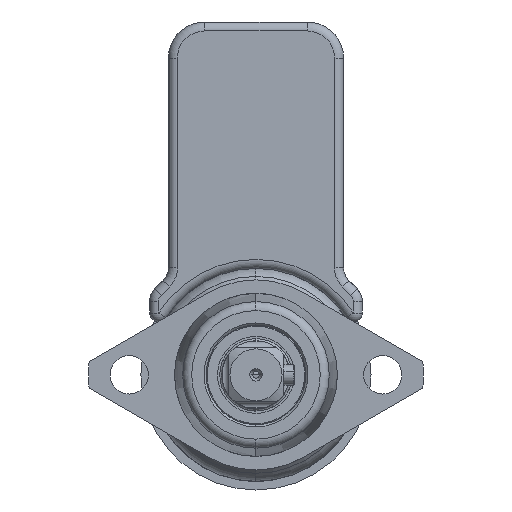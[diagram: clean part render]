
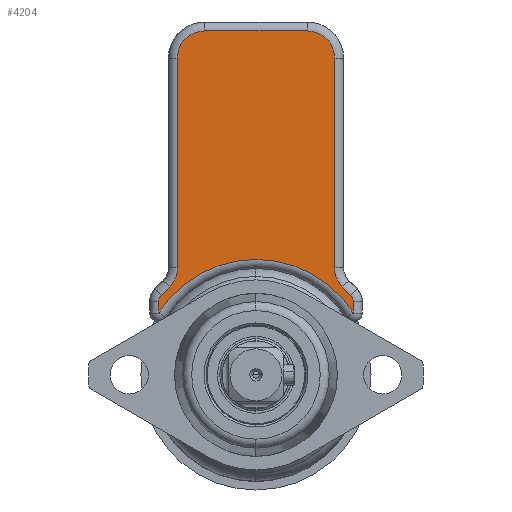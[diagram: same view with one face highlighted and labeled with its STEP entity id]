
A CAD part, left-side view. The second image highlights one B-rep face of the part: STEP entity #4204.
In plain terms, the highlighted planar face has unit normal (-1, 0, 0).
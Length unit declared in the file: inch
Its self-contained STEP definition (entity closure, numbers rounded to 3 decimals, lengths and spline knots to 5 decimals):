
#87 = EDGE_CURVE ( 'NONE', #7372, #7375, #11777, .T. ) ;
#91 = EDGE_CURVE ( 'NONE', #7382, #7372, #11780, .T. ) ;
#93 = EDGE_CURVE ( 'NONE', #7387, #7382, #11782, .T. ) ;
#95 = EDGE_CURVE ( 'NONE', #7373, #7387, #11785, .T. ) ;
#97 = EDGE_CURVE ( 'NONE', #7385, #6146, #11787, .T. ) ;
#98 = EDGE_CURVE ( 'NONE', #6146, #7373, #11791, .T. ) ;
#99 = EDGE_CURVE ( 'NONE', #7375, #6144, #11793, .T. ) ;
#100 = EDGE_CURVE ( 'NONE', #6144, #6148, #11794, .T. ) ;
#101 = EDGE_CURVE ( 'NONE', #6148, #6149, #11796, .T. ) ;
#102 = EDGE_CURVE ( 'NONE', #6149, #6150, #11797, .T. ) ;
#103 = EDGE_CURVE ( 'NONE', #6150, #6151, #11799, .T. ) ;
#104 = EDGE_CURVE ( 'NONE', #6151, #6152, #11800, .T. ) ;
#105 = EDGE_CURVE ( 'NONE', #6152, #6153, #11802, .T. ) ;
#106 = EDGE_CURVE ( 'NONE', #6153, #7385, #11803, .T. ) ;
#1364 = ORIENTED_EDGE ( 'NONE', *, *, #97, .T. ) ;
#1365 = ORIENTED_EDGE ( 'NONE', *, *, #98, .T. ) ;
#1366 = ORIENTED_EDGE ( 'NONE', *, *, #95, .T. ) ;
#1367 = ORIENTED_EDGE ( 'NONE', *, *, #93, .T. ) ;
#1368 = ORIENTED_EDGE ( 'NONE', *, *, #91, .T. ) ;
#1369 = ORIENTED_EDGE ( 'NONE', *, *, #87, .T. ) ;
#1370 = ORIENTED_EDGE ( 'NONE', *, *, #99, .T. ) ;
#1371 = ORIENTED_EDGE ( 'NONE', *, *, #100, .T. ) ;
#1372 = ORIENTED_EDGE ( 'NONE', *, *, #101, .T. ) ;
#1373 = ORIENTED_EDGE ( 'NONE', *, *, #102, .T. ) ;
#1374 = ORIENTED_EDGE ( 'NONE', *, *, #103, .T. ) ;
#1375 = ORIENTED_EDGE ( 'NONE', *, *, #104, .T. ) ;
#1376 = ORIENTED_EDGE ( 'NONE', *, *, #105, .T. ) ;
#1377 = ORIENTED_EDGE ( 'NONE', *, *, #106, .T. ) ;
#4204 = ADVANCED_FACE ( 'NONE', ( #17296 ), #20784, .T. ) ;
#6144 = VERTEX_POINT ( 'NONE', #26344 ) ;
#6146 = VERTEX_POINT ( 'NONE', #26346 ) ;
#6148 = VERTEX_POINT ( 'NONE', #26348 ) ;
#6149 = VERTEX_POINT ( 'NONE', #26349 ) ;
#6150 = VERTEX_POINT ( 'NONE', #26350 ) ;
#6151 = VERTEX_POINT ( 'NONE', #26351 ) ;
#6152 = VERTEX_POINT ( 'NONE', #26352 ) ;
#6153 = VERTEX_POINT ( 'NONE', #26353 ) ;
#7372 = VERTEX_POINT ( 'NONE', #26775 ) ;
#7373 = VERTEX_POINT ( 'NONE', #26776 ) ;
#7375 = VERTEX_POINT ( 'NONE', #26778 ) ;
#7382 = VERTEX_POINT ( 'NONE', #26785 ) ;
#7385 = VERTEX_POINT ( 'NONE', #26788 ) ;
#7387 = VERTEX_POINT ( 'NONE', #26790 ) ;
#7482 = EDGE_LOOP ( 'NONE', ( #1364, #1365, #1366, #1367, #1368, #1369, #1370, #1371, #1372, #1373, #1374, #1375, #1376, #1377 ) ) ;
#11777 = CIRCLE ( 'NONE', #12874, 0.797 ) ;
#11780 = LINE ( 'NONE', #13839, #11784 ) ;
#11782 = CIRCLE ( 'NONE', #12879, 0.063 ) ;
#11784 = VECTOR ( 'NONE', #13835, 39.37008 ) ;
#11785 = LINE ( 'NONE', #13851, #11789 ) ;
#11787 = LINE ( 'NONE', #13857, #11792 ) ;
#11789 = VECTOR ( 'NONE', #13847, 39.37008 ) ;
#11791 = CIRCLE ( 'NONE', #12882, 0.187 ) ;
#11792 = VECTOR ( 'NONE', #13843, 39.37008 ) ;
#11793 = LINE ( 'NONE', #13856, #11795 ) ;
#11794 = CIRCLE ( 'NONE', #12883, 0.063 ) ;
#11795 = VECTOR ( 'NONE', #13855, 39.37008 ) ;
#11796 = LINE ( 'NONE', #13861, #11798 ) ;
#11797 = CIRCLE ( 'NONE', #12884, 0.187 ) ;
#11798 = VECTOR ( 'NONE', #13862, 39.37008 ) ;
#11799 = LINE ( 'NONE', #13866, #11801 ) ;
#11800 = CIRCLE ( 'NONE', #12885, 0.188 ) ;
#11801 = VECTOR ( 'NONE', #13867, 39.37008 ) ;
#11802 = LINE ( 'NONE', #13871, #11804 ) ;
#11803 = CIRCLE ( 'NONE', #12886, 0.188 ) ;
#11804 = VECTOR ( 'NONE', #13872, 39.37008 ) ;
#12874 = AXIS2_PLACEMENT_3D ( 'NONE', #13829, #13830, #13831 ) ;
#12879 = AXIS2_PLACEMENT_3D ( 'NONE', #13848, #13849, #13850 ) ;
#12882 = AXIS2_PLACEMENT_3D ( 'NONE', #13863, #13864, #13865 ) ;
#12883 = AXIS2_PLACEMENT_3D ( 'NONE', #13868, #13869, #13870 ) ;
#12884 = AXIS2_PLACEMENT_3D ( 'NONE', #13873, #13874, #13875 ) ;
#12885 = AXIS2_PLACEMENT_3D ( 'NONE', #13877, #13878, #13879 ) ;
#12886 = AXIS2_PLACEMENT_3D ( 'NONE', #13881, #13882, #13883 ) ;
#13829 = CARTESIAN_POINT ( 'NONE',  ( -1.065, 0., -1.3941 ) ) ;
#13830 = DIRECTION ( 'NONE',  ( 1., 0., 0. ) ) ;
#13831 = DIRECTION ( 'NONE',  ( 0., 1., 0. ) ) ;
#13835 = DIRECTION ( 'NONE',  ( 0., 0., -1. ) ) ;
#13839 = CARTESIAN_POINT ( 'NONE',  ( -1.065, 0.673, -0.88888 ) ) ;
#13843 = DIRECTION ( 'NONE',  ( 0., 0., -1. ) ) ;
#13847 = DIRECTION ( 'NONE',  ( 0., 0.707, -0.707 ) ) ;
#13848 = CARTESIAN_POINT ( 'NONE',  ( -1.065, 0.61, -0.88888 ) ) ;
#13849 = DIRECTION ( 'NONE',  ( -1., 0., 0. ) ) ;
#13850 = DIRECTION ( 'NONE',  ( 0., 1., 0. ) ) ;
#13851 = CARTESIAN_POINT ( 'NONE',  ( -1.065, 0.65455, -0.84433 ) ) ;
#13855 = DIRECTION ( 'NONE',  ( 0., 0., 1. ) ) ;
#13856 = CARTESIAN_POINT ( 'NONE',  ( -1.065, -0.673, -0.88888 ) ) ;
#13857 = CARTESIAN_POINT ( 'NONE',  ( -1.065, 0.543, -0.88888 ) ) ;
#13861 = CARTESIAN_POINT ( 'NONE',  ( -1.065, -0.04455, -0.23433 ) ) ;
#13862 = DIRECTION ( 'NONE',  ( 0., 0.707, 0.707 ) ) ;
#13863 = CARTESIAN_POINT ( 'NONE',  ( -1.065, 0.73, -0.65532 ) ) ;
#13864 = DIRECTION ( 'NONE',  ( 1., 0., 0. ) ) ;
#13865 = DIRECTION ( 'NONE',  ( 0., 1., 0. ) ) ;
#13866 = CARTESIAN_POINT ( 'NONE',  ( -1.065, -0.543, -0.88888 ) ) ;
#13867 = DIRECTION ( 'NONE',  ( 0., 0., 1. ) ) ;
#13868 = CARTESIAN_POINT ( 'NONE',  ( -1.065, -0.61, -0.88888 ) ) ;
#13869 = DIRECTION ( 'NONE',  ( -1., 0., 0. ) ) ;
#13870 = DIRECTION ( 'NONE',  ( 0., 1., 0. ) ) ;
#13871 = CARTESIAN_POINT ( 'NONE',  ( -1.065, 0.61, 0.9809 ) ) ;
#13872 = DIRECTION ( 'NONE',  ( 0., 1., 0. ) ) ;
#13873 = CARTESIAN_POINT ( 'NONE',  ( -1.065, -0.73, -0.65532 ) ) ;
#13874 = DIRECTION ( 'NONE',  ( 1., 0., 0. ) ) ;
#13875 = DIRECTION ( 'NONE',  ( 0., 1., 0. ) ) ;
#13877 = CARTESIAN_POINT ( 'NONE',  ( -1.065, -0.355, 0.7929 ) ) ;
#13878 = DIRECTION ( 'NONE',  ( -1., 0., 0. ) ) ;
#13879 = DIRECTION ( 'NONE',  ( 0., 1., 0. ) ) ;
#13881 = CARTESIAN_POINT ( 'NONE',  ( -1.065, 0.355, 0.7929 ) ) ;
#13882 = DIRECTION ( 'NONE',  ( -1., 0., 0. ) ) ;
#13883 = DIRECTION ( 'NONE',  ( 0., 1., 0. ) ) ;
#17296 = FACE_OUTER_BOUND ( 'NONE', #7482, .T. ) ;
#20780 = CARTESIAN_POINT ( 'NONE',  ( -1.065, 0.61, -0.88888 ) ) ;
#20784 = PLANE ( 'NONE',  #21555 ) ;
#20786 = DIRECTION ( 'NONE',  ( -1., 0., 0. ) ) ;
#20787 = DIRECTION ( 'NONE',  ( 0., 1., 0. ) ) ;
#21555 = AXIS2_PLACEMENT_3D ( 'NONE', #20780, #20786, #20787 ) ;
#26344 = CARTESIAN_POINT ( 'NONE',  ( -1.065, -0.673, -0.88888 ) ) ;
#26346 = CARTESIAN_POINT ( 'NONE',  ( -1.065, 0.543, -0.65532 ) ) ;
#26348 = CARTESIAN_POINT ( 'NONE',  ( -1.065, -0.65455, -0.84433 ) ) ;
#26349 = CARTESIAN_POINT ( 'NONE',  ( -1.065, -0.59777, -0.78755 ) ) ;
#26350 = CARTESIAN_POINT ( 'NONE',  ( -1.065, -0.543, -0.65532 ) ) ;
#26351 = CARTESIAN_POINT ( 'NONE',  ( -1.065, -0.543, 0.7929 ) ) ;
#26352 = CARTESIAN_POINT ( 'NONE',  ( -1.065, -0.355, 0.9809 ) ) ;
#26353 = CARTESIAN_POINT ( 'NONE',  ( -1.065, 0.355, 0.9809 ) ) ;
#26775 = CARTESIAN_POINT ( 'NONE',  ( -1.065, 0.673, -0.96716 ) ) ;
#26776 = CARTESIAN_POINT ( 'NONE',  ( -1.065, 0.59777, -0.78755 ) ) ;
#26778 = CARTESIAN_POINT ( 'NONE',  ( -1.065, -0.673, -0.96716 ) ) ;
#26785 = CARTESIAN_POINT ( 'NONE',  ( -1.065, 0.673, -0.88888 ) ) ;
#26788 = CARTESIAN_POINT ( 'NONE',  ( -1.065, 0.543, 0.7929 ) ) ;
#26790 = CARTESIAN_POINT ( 'NONE',  ( -1.065, 0.65455, -0.84433 ) ) ;
